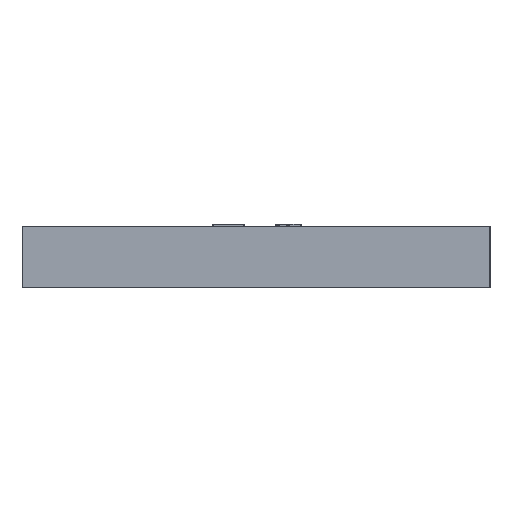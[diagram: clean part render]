
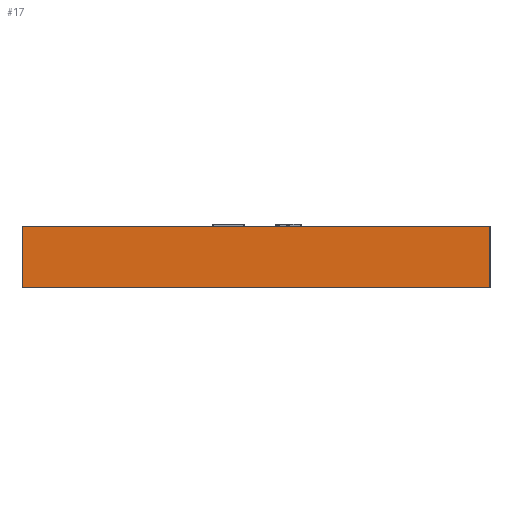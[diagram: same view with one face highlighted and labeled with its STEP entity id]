
A CAD part, left-side view. The second image highlights one B-rep face of the part: STEP entity #17.
In plain terms, the highlighted planar face has unit normal (-1, 0, 0).
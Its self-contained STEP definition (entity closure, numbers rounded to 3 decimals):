
#17 = ADVANCED_FACE('',(#18),#32,.F.);
#18 = FACE_BOUND('',#19,.F.);
#19 = EDGE_LOOP('',(#20,#55,#83,#111));
#20 = ORIENTED_EDGE('',*,*,#21,.F.);
#21 = EDGE_CURVE('',#22,#24,#26,.T.);
#22 = VERTEX_POINT('',#23);
#23 = CARTESIAN_POINT('',(-77.35,-50.85,7.));
#24 = VERTEX_POINT('',#25);
#25 = CARTESIAN_POINT('',(-77.35,-50.85,20.35));
#26 = SURFACE_CURVE('',#27,(#31,#43),.PCURVE_S1.);
#27 = LINE('',#28,#29);
#28 = CARTESIAN_POINT('',(-77.35,-50.85,7.));
#29 = VECTOR('',#30,1.);
#30 = DIRECTION('',(0.,0.,1.));
#31 = PCURVE('',#32,#37);
#32 = PLANE('',#33);
#33 = AXIS2_PLACEMENT_3D('',#34,#35,#36);
#34 = CARTESIAN_POINT('',(-77.35,-50.85,7.));
#35 = DIRECTION('',(1.,0.,-0.));
#36 = DIRECTION('',(0.,0.,1.));
#37 = DEFINITIONAL_REPRESENTATION('',(#38),#42);
#38 = LINE('',#39,#40);
#39 = CARTESIAN_POINT('',(0.,0.));
#40 = VECTOR('',#41,1.);
#41 = DIRECTION('',(1.,0.));
#42 = ( GEOMETRIC_REPRESENTATION_CONTEXT(2) 
PARAMETRIC_REPRESENTATION_CONTEXT() REPRESENTATION_CONTEXT('2D SPACE',''
  ) );
#43 = PCURVE('',#44,#49);
#44 = PLANE('',#45);
#45 = AXIS2_PLACEMENT_3D('',#46,#47,#48);
#46 = CARTESIAN_POINT('',(-77.35,-50.85,7.));
#47 = DIRECTION('',(-0.,1.,0.));
#48 = DIRECTION('',(0.,0.,1.));
#49 = DEFINITIONAL_REPRESENTATION('',(#50),#54);
#50 = LINE('',#51,#52);
#51 = CARTESIAN_POINT('',(0.,0.));
#52 = VECTOR('',#53,1.);
#53 = DIRECTION('',(1.,0.));
#54 = ( GEOMETRIC_REPRESENTATION_CONTEXT(2) 
PARAMETRIC_REPRESENTATION_CONTEXT() REPRESENTATION_CONTEXT('2D SPACE',''
  ) );
#55 = ORIENTED_EDGE('',*,*,#56,.T.);
#56 = EDGE_CURVE('',#22,#57,#59,.T.);
#57 = VERTEX_POINT('',#58);
#58 = CARTESIAN_POINT('',(-77.35,50.85,7.));
#59 = SURFACE_CURVE('',#60,(#64,#71),.PCURVE_S1.);
#60 = LINE('',#61,#62);
#61 = CARTESIAN_POINT('',(-77.35,-50.85,7.));
#62 = VECTOR('',#63,1.);
#63 = DIRECTION('',(-0.,1.,0.));
#64 = PCURVE('',#32,#65);
#65 = DEFINITIONAL_REPRESENTATION('',(#66),#70);
#66 = LINE('',#67,#68);
#67 = CARTESIAN_POINT('',(0.,0.));
#68 = VECTOR('',#69,1.);
#69 = DIRECTION('',(0.,-1.));
#70 = ( GEOMETRIC_REPRESENTATION_CONTEXT(2) 
PARAMETRIC_REPRESENTATION_CONTEXT() REPRESENTATION_CONTEXT('2D SPACE',''
  ) );
#71 = PCURVE('',#72,#77);
#72 = PLANE('',#73);
#73 = AXIS2_PLACEMENT_3D('',#74,#75,#76);
#74 = CARTESIAN_POINT('',(-77.35,-50.85,7.));
#75 = DIRECTION('',(0.,0.,1.));
#76 = DIRECTION('',(1.,0.,-0.));
#77 = DEFINITIONAL_REPRESENTATION('',(#78),#82);
#78 = LINE('',#79,#80);
#79 = CARTESIAN_POINT('',(0.,0.));
#80 = VECTOR('',#81,1.);
#81 = DIRECTION('',(0.,1.));
#82 = ( GEOMETRIC_REPRESENTATION_CONTEXT(2) 
PARAMETRIC_REPRESENTATION_CONTEXT() REPRESENTATION_CONTEXT('2D SPACE',''
  ) );
#83 = ORIENTED_EDGE('',*,*,#84,.T.);
#84 = EDGE_CURVE('',#57,#85,#87,.T.);
#85 = VERTEX_POINT('',#86);
#86 = CARTESIAN_POINT('',(-77.35,50.85,20.35));
#87 = SURFACE_CURVE('',#88,(#92,#99),.PCURVE_S1.);
#88 = LINE('',#89,#90);
#89 = CARTESIAN_POINT('',(-77.35,50.85,7.));
#90 = VECTOR('',#91,1.);
#91 = DIRECTION('',(0.,0.,1.));
#92 = PCURVE('',#32,#93);
#93 = DEFINITIONAL_REPRESENTATION('',(#94),#98);
#94 = LINE('',#95,#96);
#95 = CARTESIAN_POINT('',(0.,-101.7));
#96 = VECTOR('',#97,1.);
#97 = DIRECTION('',(1.,0.));
#98 = ( GEOMETRIC_REPRESENTATION_CONTEXT(2) 
PARAMETRIC_REPRESENTATION_CONTEXT() REPRESENTATION_CONTEXT('2D SPACE',''
  ) );
#99 = PCURVE('',#100,#105);
#100 = PLANE('',#101);
#101 = AXIS2_PLACEMENT_3D('',#102,#103,#104);
#102 = CARTESIAN_POINT('',(-77.35,50.85,7.));
#103 = DIRECTION('',(-0.,1.,0.));
#104 = DIRECTION('',(0.,0.,1.));
#105 = DEFINITIONAL_REPRESENTATION('',(#106),#110);
#106 = LINE('',#107,#108);
#107 = CARTESIAN_POINT('',(0.,0.));
#108 = VECTOR('',#109,1.);
#109 = DIRECTION('',(1.,0.));
#110 = ( GEOMETRIC_REPRESENTATION_CONTEXT(2) 
PARAMETRIC_REPRESENTATION_CONTEXT() REPRESENTATION_CONTEXT('2D SPACE',''
  ) );
#111 = ORIENTED_EDGE('',*,*,#112,.F.);
#112 = EDGE_CURVE('',#24,#85,#113,.T.);
#113 = SURFACE_CURVE('',#114,(#118,#125),.PCURVE_S1.);
#114 = LINE('',#115,#116);
#115 = CARTESIAN_POINT('',(-77.35,-50.85,20.35));
#116 = VECTOR('',#117,1.);
#117 = DIRECTION('',(-0.,1.,0.));
#118 = PCURVE('',#32,#119);
#119 = DEFINITIONAL_REPRESENTATION('',(#120),#124);
#120 = LINE('',#121,#122);
#121 = CARTESIAN_POINT('',(13.35,0.));
#122 = VECTOR('',#123,1.);
#123 = DIRECTION('',(0.,-1.));
#124 = ( GEOMETRIC_REPRESENTATION_CONTEXT(2) 
PARAMETRIC_REPRESENTATION_CONTEXT() REPRESENTATION_CONTEXT('2D SPACE',''
  ) );
#125 = PCURVE('',#126,#131);
#126 = PLANE('',#127);
#127 = AXIS2_PLACEMENT_3D('',#128,#129,#130);
#128 = CARTESIAN_POINT('',(-77.35,-50.85,20.35));
#129 = DIRECTION('',(0.,0.,1.));
#130 = DIRECTION('',(1.,0.,-0.));
#131 = DEFINITIONAL_REPRESENTATION('',(#132),#136);
#132 = LINE('',#133,#134);
#133 = CARTESIAN_POINT('',(0.,0.));
#134 = VECTOR('',#135,1.);
#135 = DIRECTION('',(0.,1.));
#136 = ( GEOMETRIC_REPRESENTATION_CONTEXT(2) 
PARAMETRIC_REPRESENTATION_CONTEXT() REPRESENTATION_CONTEXT('2D SPACE',''
  ) );
